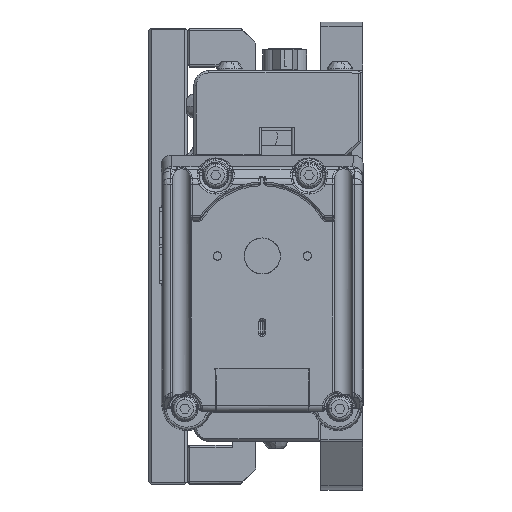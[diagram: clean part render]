
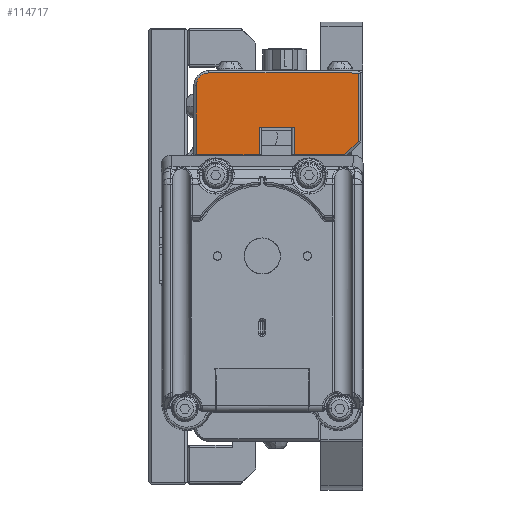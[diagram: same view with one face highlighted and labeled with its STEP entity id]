
A CAD part, left-side view. The second image highlights one B-rep face of the part: STEP entity #114717.
In plain terms, the highlighted planar face has unit normal (-1, 0, 0).
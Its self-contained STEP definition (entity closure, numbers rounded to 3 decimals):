
#2543 = CARTESIAN_POINT ( 'NONE',  ( -73.66, 35.763, 66.548 ) ) ;
#8261 = LINE ( 'NONE', #23264, #105162 ) ;
#9080 = VERTEX_POINT ( 'NONE', #40504 ) ;
#10027 = VECTOR ( 'NONE', #96856, 1000. ) ;
#12459 = CARTESIAN_POINT ( 'NONE',  ( -73.66, 35.255, 78.486 ) ) ;
#12643 = CARTESIAN_POINT ( 'NONE',  ( -73.66, 3.843, 60.706 ) ) ;
#16302 = CARTESIAN_POINT ( 'NONE',  ( -73.66, 21.92, 60.706 ) ) ;
#18631 = DIRECTION ( 'NONE',  ( 1., 0., 0. ) ) ;
#20475 = LINE ( 'NONE', #87645, #42060 ) ;
#21836 = DIRECTION ( 'NONE',  ( 0., 0., 1. ) ) ;
#22002 = DIRECTION ( 'NONE',  ( 0., -0.707, 0.707 ) ) ;
#23264 = CARTESIAN_POINT ( 'NONE',  ( -73.66, 35.763, 77.978 ) ) ;
#23692 = PLANE ( 'NONE',  #113652 ) ;
#26342 = DIRECTION ( 'NONE',  ( 0., -1., 0. ) ) ;
#28986 = CARTESIAN_POINT ( 'NONE',  ( -73.66, 21.92, 66.548 ) ) ;
#29027 = LINE ( 'NONE', #12643, #50655 ) ;
#31245 = CARTESIAN_POINT ( 'NONE',  ( -73.66, 14.554, 78.486 ) ) ;
#33988 = CARTESIAN_POINT ( 'NONE',  ( -73.66, 32.588, 77.978 ) ) ;
#34298 = CARTESIAN_POINT ( 'NONE',  ( -73.66, 14.554, 60.706 ) ) ;
#35489 = CIRCLE ( 'NONE', #117941, 2.667 ) ;
#37811 = VERTEX_POINT ( 'NONE', #33988 ) ;
#40504 = CARTESIAN_POINT ( 'NONE',  ( -73.66, 35.255, 60.706 ) ) ;
#41124 = LINE ( 'NONE', #31245, #116550 ) ;
#42060 = VECTOR ( 'NONE', #77969, 1000. ) ;
#42237 = DIRECTION ( 'NONE',  ( 0., 0., 1. ) ) ;
#44430 = VERTEX_POINT ( 'NONE', #101857 ) ;
#48023 = FACE_OUTER_BOUND ( 'NONE', #87583, .T. ) ;
#50655 = VECTOR ( 'NONE', #22002, 1000. ) ;
#54169 = CARTESIAN_POINT ( 'NONE',  ( -73.66, 35.763, 60.706 ) ) ;
#55153 = DIRECTION ( 'NONE',  ( 0., 0., 1. ) ) ;
#56253 = ORIENTED_EDGE ( 'NONE', *, *, #115594, .T. ) ;
#56658 = ORIENTED_EDGE ( 'NONE', *, *, #107413, .T. ) ;
#58999 = ORIENTED_EDGE ( 'NONE', *, *, #104673, .T. ) ;
#59245 = LINE ( 'NONE', #12459, #106862 ) ;
#59322 = LINE ( 'NONE', #106769, #10027 ) ;
#64402 = ORIENTED_EDGE ( 'NONE', *, *, #105052, .T. ) ;
#65284 = LINE ( 'NONE', #54169, #90717 ) ;
#67006 = ORIENTED_EDGE ( 'NONE', *, *, #105998, .T. ) ;
#67228 = ORIENTED_EDGE ( 'NONE', *, *, #106515, .T. ) ;
#69871 = ORIENTED_EDGE ( 'NONE', *, *, #107058, .T. ) ;
#73344 = LINE ( 'NONE', #2543, #76395 ) ;
#74324 = CARTESIAN_POINT ( 'NONE',  ( -73.66, 32.588, 75.311 ) ) ;
#75671 = CARTESIAN_POINT ( 'NONE',  ( -73.66, 3.843, 60.706 ) ) ;
#76395 = VECTOR ( 'NONE', #77188, 1000. ) ;
#77188 = DIRECTION ( 'NONE',  ( 0., -1., 0. ) ) ;
#77800 = ORIENTED_EDGE ( 'NONE', *, *, #85240, .T. ) ;
#77969 = DIRECTION ( 'NONE',  ( 0., -1., 0. ) ) ;
#78265 = DIRECTION ( 'NONE',  ( 0., 0., -1. ) ) ;
#78400 = ORIENTED_EDGE ( 'NONE', *, *, #120753, .F. ) ;
#80354 = ORIENTED_EDGE ( 'NONE', *, *, #100430, .F. ) ;
#83396 = CARTESIAN_POINT ( 'NONE',  ( -73.66, 21.92, 78.486 ) ) ;
#84006 = DIRECTION ( 'NONE',  ( 0., 0., -1. ) ) ;
#85240 = EDGE_CURVE ( 'NONE', #86781, #37811, #8261, .T. ) ;
#86781 = VERTEX_POINT ( 'NONE', #88048 ) ;
#87583 = EDGE_LOOP ( 'NONE', ( #56253, #56658, #58999, #64402, #67006, #67228, #69871, #77800, #78400, #80354 ) ) ;
#87645 = CARTESIAN_POINT ( 'NONE',  ( -73.66, 35.763, 60.706 ) ) ;
#88048 = CARTESIAN_POINT ( 'NONE',  ( -73.66, 0.965, 77.978 ) ) ;
#89299 = CARTESIAN_POINT ( 'NONE',  ( -73.66, 35.763, 78.486 ) ) ;
#90717 = VECTOR ( 'NONE', #26342, 1000. ) ;
#91855 = VERTEX_POINT ( 'NONE', #34298 ) ;
#93181 = VERTEX_POINT ( 'NONE', #28986 ) ;
#96544 = VERTEX_POINT ( 'NONE', #75671 ) ;
#96856 = DIRECTION ( 'NONE',  ( 0., 0., 1. ) ) ;
#98361 = DIRECTION ( 'NONE',  ( 0., 1., 0. ) ) ;
#98521 = VERTEX_POINT ( 'NONE', #112619 ) ;
#98816 = DIRECTION ( 'NONE',  ( -1., 0., 0. ) ) ;
#100430 = EDGE_CURVE ( 'NONE', #9080, #44430, #59245, .T. ) ;
#101857 = CARTESIAN_POINT ( 'NONE',  ( -73.66, 35.255, 75.311 ) ) ;
#103615 = VERTEX_POINT ( 'NONE', #108793 ) ;
#104673 = EDGE_CURVE ( 'NONE', #93181, #98521, #73344, .T. ) ;
#105052 = EDGE_CURVE ( 'NONE', #98521, #91855, #41124, .T. ) ;
#105162 = VECTOR ( 'NONE', #98361, 1000. ) ;
#105998 = EDGE_CURVE ( 'NONE', #91855, #96544, #20475, .T. ) ;
#106275 = VERTEX_POINT ( 'NONE', #16302 ) ;
#106515 = EDGE_CURVE ( 'NONE', #96544, #103615, #29027, .T. ) ;
#106769 = CARTESIAN_POINT ( 'NONE',  ( -73.66, 0.965, 78.486 ) ) ;
#106862 = VECTOR ( 'NONE', #21836, 1000. ) ;
#107058 = EDGE_CURVE ( 'NONE', #103615, #86781, #59322, .T. ) ;
#107413 = EDGE_CURVE ( 'NONE', #106275, #93181, #111298, .T. ) ;
#108329 = VECTOR ( 'NONE', #55153, 1000. ) ;
#108793 = CARTESIAN_POINT ( 'NONE',  ( -73.66, 0.965, 63.583 ) ) ;
#111298 = LINE ( 'NONE', #83396, #108329 ) ;
#112619 = CARTESIAN_POINT ( 'NONE',  ( -73.66, 14.554, 66.548 ) ) ;
#113652 = AXIS2_PLACEMENT_3D ( 'NONE', #89299, #98816, #42237 ) ;
#114717 = ADVANCED_FACE ( 'NONE', ( #48023 ), #23692, .T. ) ;
#115594 = EDGE_CURVE ( 'NONE', #9080, #106275, #65284, .T. ) ;
#116550 = VECTOR ( 'NONE', #78265, 1000. ) ;
#117941 = AXIS2_PLACEMENT_3D ( 'NONE', #74324, #18631, #84006 ) ;
#120753 = EDGE_CURVE ( 'NONE', #44430, #37811, #35489, .T. ) ;
